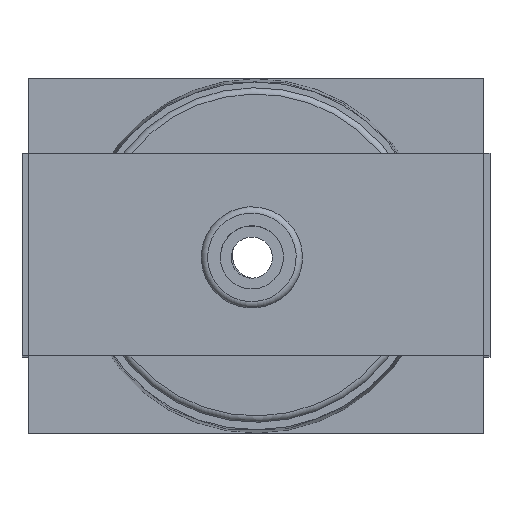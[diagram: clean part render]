
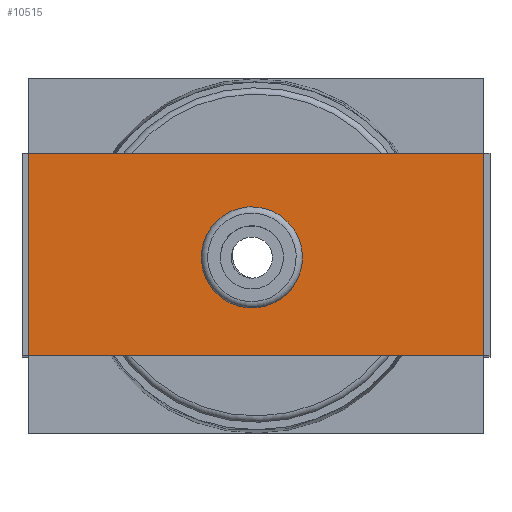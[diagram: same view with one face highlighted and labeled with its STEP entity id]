
A CAD part, top view. The second image highlights one B-rep face of the part: STEP entity #10515.
In plain terms, the highlighted planar face has unit normal (0, 0, 1).
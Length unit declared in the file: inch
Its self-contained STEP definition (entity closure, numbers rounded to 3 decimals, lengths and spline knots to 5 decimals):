
#204=FACE_BOUND('',#1668,.T.);
#670=PLANE('',#11099);
#1079=FACE_OUTER_BOUND('',#1667,.T.);
#1667=EDGE_LOOP('',(#7193,#7194,#7195,#7196));
#1668=EDGE_LOOP('',(#7197));
#2371=LINE('',#24368,#3429);
#2373=LINE('',#24372,#3431);
#2374=LINE('',#24374,#3432);
#2375=LINE('',#24375,#3433);
#3429=VECTOR('',#11706,9.);
#3431=VECTOR('',#11710,4.);
#3432=VECTOR('',#11711,9.);
#3433=VECTOR('',#11712,4.);
#4417=CIRCLE('',#11088,0.75);
#4555=VERTEX_POINT('',#24329);
#4568=VERTEX_POINT('',#24365);
#4569=VERTEX_POINT('',#24367);
#4570=VERTEX_POINT('',#24371);
#4571=VERTEX_POINT('',#24373);
#5585=EDGE_CURVE('',#4555,#4555,#4417,.T.);
#5603=EDGE_CURVE('',#4569,#4568,#2371,.T.);
#5605=EDGE_CURVE('',#4568,#4570,#2373,.T.);
#5606=EDGE_CURVE('',#4571,#4570,#2374,.T.);
#5607=EDGE_CURVE('',#4569,#4571,#2375,.T.);
#7193=ORIENTED_EDGE('',*,*,#5605,.T.);
#7194=ORIENTED_EDGE('',*,*,#5606,.F.);
#7195=ORIENTED_EDGE('',*,*,#5607,.F.);
#7196=ORIENTED_EDGE('',*,*,#5603,.T.);
#7197=ORIENTED_EDGE('',*,*,#5585,.T.);
#10515=ADVANCED_FACE('',(#1079,#204),#670,.T.);
#11088=AXIS2_PLACEMENT_3D('',#24330,#11671,#11672);
#11099=AXIS2_PLACEMENT_3D('',#24370,#11708,#11709);
#11671=DIRECTION('center_axis',(0.,0.,-1.));
#11672=DIRECTION('ref_axis',(-1.,0.,0.));
#11706=DIRECTION('',(-1.,0.,0.));
#11708=DIRECTION('center_axis',(0.,0.,1.));
#11709=DIRECTION('ref_axis',(-1.,0.,0.));
#11710=DIRECTION('',(0.,-1.,0.));
#11711=DIRECTION('',(-1.,0.,0.));
#11712=DIRECTION('',(0.,-1.,0.));
#24329=CARTESIAN_POINT('',(-0.75,0.,0.));
#24330=CARTESIAN_POINT('Origin',(0.,0.,0.));
#24365=CARTESIAN_POINT('',(-4.5,2.,0.));
#24367=CARTESIAN_POINT('',(4.5,2.,0.));
#24368=CARTESIAN_POINT('',(4.5,2.,0.));
#24370=CARTESIAN_POINT('Origin',(4.5,2.,0.));
#24371=CARTESIAN_POINT('',(-4.5,-2.,0.));
#24372=CARTESIAN_POINT('',(-4.5,1.,0.));
#24373=CARTESIAN_POINT('',(4.5,-2.,0.));
#24374=CARTESIAN_POINT('',(4.5,-2.,0.));
#24375=CARTESIAN_POINT('',(4.5,1.,0.));
